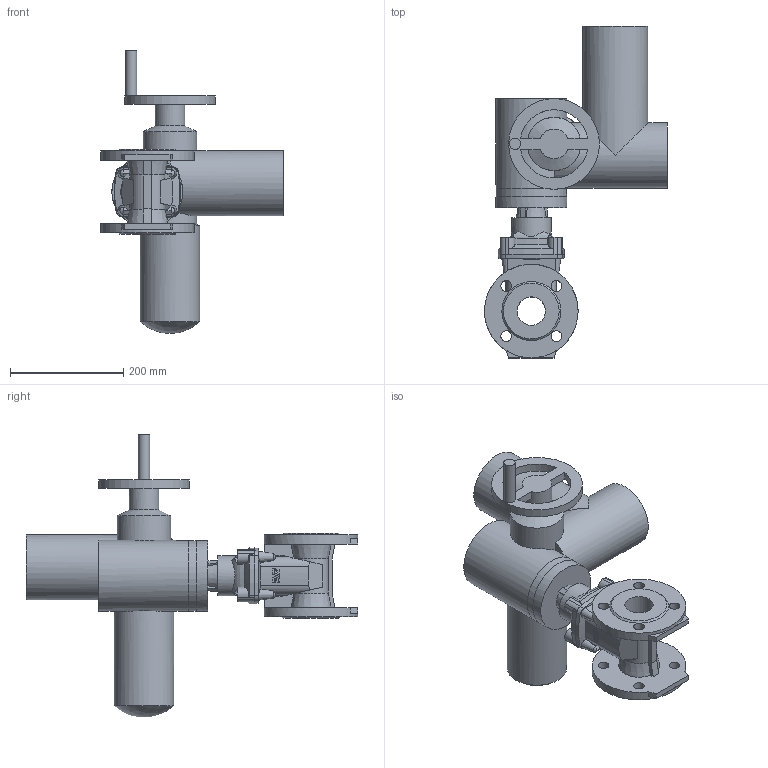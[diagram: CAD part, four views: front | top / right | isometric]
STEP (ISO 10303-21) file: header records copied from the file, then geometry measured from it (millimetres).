
FILE_DESCRIPTION (( 'STEP AP203' ), '1' );
FILE_NAME ('O_15_40_DN050_X1X_SA07.6_AA0.step', '2017-03-20T12:09:05', ( 'Windows User' ), ( 'AVK' ), 'SwSTEP 2.0', 'SolidWorks 2012', '' );
FILE_SCHEMA (( 'CONFIG_CONTROL_DESIGN' ));
Length unit declared in the file: inch
Products named in the file (1): O_15_40_DN050_X1X_SA07.6_AA0
Bounding box: 322.5 x 585 x 498.55 mm (x, y, z)
Volume: 10246132.2 mm3; surface area: 556973.2 mm2
Topology: 1 solids, 1 shells, 267 faces, 737 edges, 481 vertices
Faces by surface type: plane 94, cylinder 61, bspline 54, cone 53, torus 4, sphere 1
Full cylindrical faces by diameter (mm): 19 x8, 20 x1, 50 x1, 52.112 x1, 70 x1, 93.905 x1, 105 x1, 115 x2, 125 x3, 160 x1, 165 x2
Entity records: 9932 total; most frequent: CARTESIAN_POINT 3951, ORIENTED_EDGE 1378, DIRECTION 967, EDGE_CURVE 689, VERTEX_POINT 460, AXIS2_PLACEMENT_3D 388, EDGE_LOOP 323, FACE_OUTER_BOUND 288
